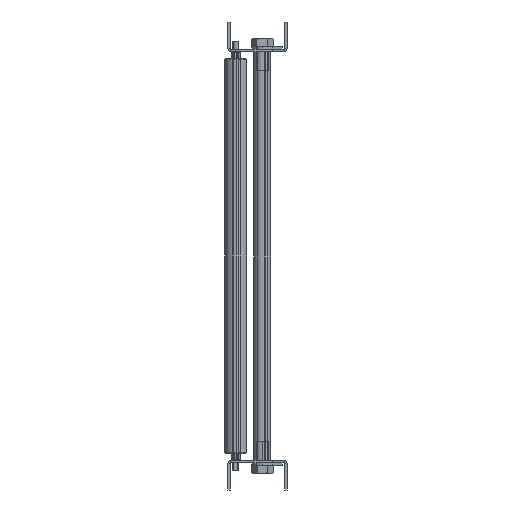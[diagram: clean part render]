
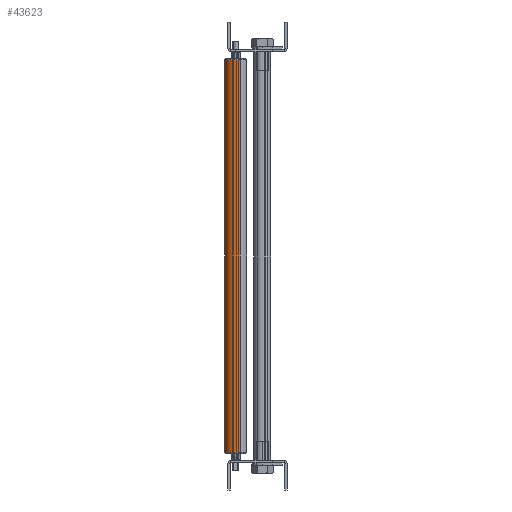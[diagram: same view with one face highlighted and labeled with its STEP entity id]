
A CAD part, left-side view. The second image highlights one B-rep face of the part: STEP entity #43623.
In plain terms, the highlighted cylindrical face has radius 11.1 mm (diameter 22.2 mm), a partial arc.
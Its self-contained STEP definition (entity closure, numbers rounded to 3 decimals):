
#103 = CARTESIAN_POINT ( 'NONE',  ( -1582.775, 25.852, -770.041 ) ) ;
#174 = ORIENTED_EDGE ( 'NONE', *, *, #94190, .T. ) ;
#1391 = CARTESIAN_POINT ( 'NONE',  ( -1562.268, 34.356, -770.041 ) ) ;
#3839 = CARTESIAN_POINT ( 'NONE',  ( -1572.521, 30.104, -23.5 ) ) ;
#5796 = CYLINDRICAL_SURFACE ( 'NONE', #6591, 11.1 ) ;
#6591 = AXIS2_PLACEMENT_3D ( 'NONE', #29977, #38063, #37086 ) ;
#9685 = CARTESIAN_POINT ( 'NONE',  ( -1572.521, 30.104, -421.5 ) ) ;
#11398 = DIRECTION ( 'NONE',  ( 0., 0., -1. ) ) ;
#29977 = CARTESIAN_POINT ( 'NONE',  ( -1572.521, 30.104, -770.041 ) ) ;
#30212 = ORIENTED_EDGE ( 'NONE', *, *, #38792, .T. ) ;
#33833 = EDGE_LOOP ( 'NONE', ( #89703, #174, #30212, #34333 ) ) ;
#34333 = ORIENTED_EDGE ( 'NONE', *, *, #76810, .T. ) ;
#37086 = DIRECTION ( 'NONE',  ( 0.924, 0.383, 0. ) ) ;
#38063 = DIRECTION ( 'NONE',  ( 0., 0., -1. ) ) ;
#38792 = EDGE_CURVE ( 'NONE', #58131, #43812, #63449, .T. ) ;
#39964 = VECTOR ( 'NONE', #61657, 1000. ) ;
#43623 = ADVANCED_FACE ( 'NONE', ( #99098 ), #5796, .T. ) ;
#43812 = VERTEX_POINT ( 'NONE', #93478 ) ;
#50124 = CIRCLE ( 'NONE', #62989, 11.1 ) ;
#53883 = AXIS2_PLACEMENT_3D ( 'NONE', #9685, #73245, #66179 ) ;
#56171 = CARTESIAN_POINT ( 'NONE',  ( -1582.775, 25.852, -421.5 ) ) ;
#58131 = VERTEX_POINT ( 'NONE', #98890 ) ;
#60663 = LINE ( 'NONE', #103, #39964 ) ;
#61657 = DIRECTION ( 'NONE',  ( 0., 0., -1. ) ) ;
#62989 = AXIS2_PLACEMENT_3D ( 'NONE', #3839, #11398, #63888 ) ;
#63449 = LINE ( 'NONE', #1391, #76678 ) ;
#63888 = DIRECTION ( 'NONE',  ( 0.924, 0.383, 0. ) ) ;
#66179 = DIRECTION ( 'NONE',  ( -0.924, -0.383, 0. ) ) ;
#71685 = CIRCLE ( 'NONE', #53883, 11.1 ) ;
#73245 = DIRECTION ( 'NONE',  ( 0., 0., 1. ) ) ;
#73448 = CARTESIAN_POINT ( 'NONE',  ( -1582.775, 25.852, -23.5 ) ) ;
#74494 = VERTEX_POINT ( 'NONE', #73448 ) ;
#76678 = VECTOR ( 'NONE', #78574, 1000. ) ;
#76810 = EDGE_CURVE ( 'NONE', #43812, #81650, #71685, .T. ) ;
#78574 = DIRECTION ( 'NONE',  ( 0., 0., -1. ) ) ;
#81650 = VERTEX_POINT ( 'NONE', #56171 ) ;
#89703 = ORIENTED_EDGE ( 'NONE', *, *, #90452, .F. ) ;
#90452 = EDGE_CURVE ( 'NONE', #74494, #81650, #60663, .T. ) ;
#93478 = CARTESIAN_POINT ( 'NONE',  ( -1562.268, 34.356, -421.5 ) ) ;
#94190 = EDGE_CURVE ( 'NONE', #74494, #58131, #50124, .T. ) ;
#98890 = CARTESIAN_POINT ( 'NONE',  ( -1562.268, 34.356, -23.5 ) ) ;
#99098 = FACE_OUTER_BOUND ( 'NONE', #33833, .T. ) ;
